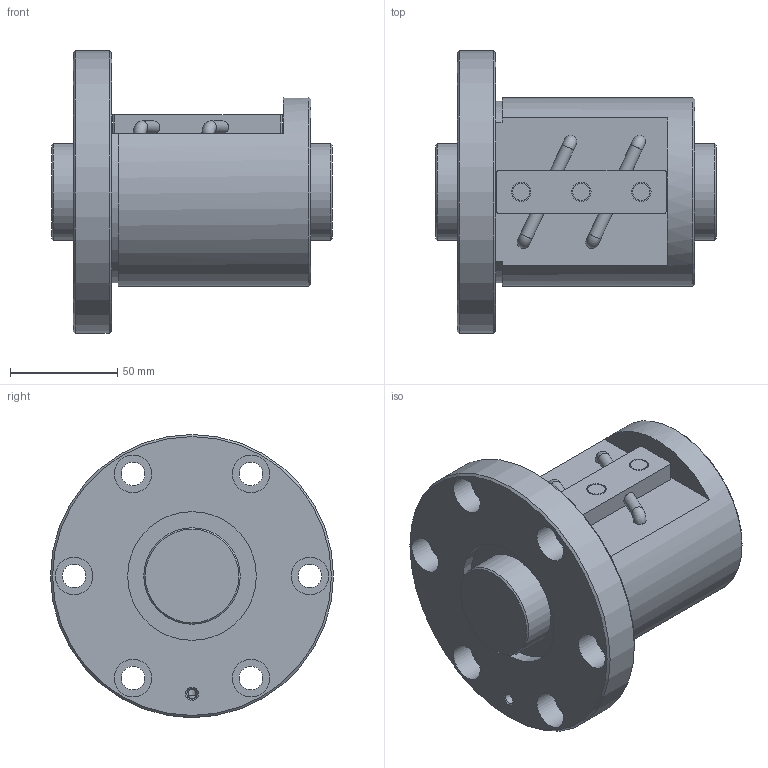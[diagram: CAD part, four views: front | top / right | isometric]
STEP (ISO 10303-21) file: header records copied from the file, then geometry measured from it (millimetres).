
FILE_DESCRIPTION(/* description */ ('STEP AP203'),/* implementation_level */ '2;1');
FILE_NAME(/* name */ 'BNF4510V-5RRG1+131LC0_000_rev',/* time_stamp */ '2024-08-06T08:54:45+02:00',/* author */ ('License CC BY-ND 4.0'),/* organization */ ('CADENAS'),/* preprocessor_version */ 'ST-DEVELOPER v19.3',/* originating_system */ 'PARTsolutions',/* authorisation */ ' ');
FILE_SCHEMA (('CONFIG_CONTROL_DESIGN'));
Length unit declared in the file: millimetre
Products named in the file (3): BNF4510V-5RRG1+131LC0_000_rev; BNF 4510-5RR000 Shaft; BNF 4510-5RR Nut
Assembly tree (2 placements, depth 2):
  BNF4510V-5RRG1+131LC0_000_rev
    BNF 4510-5RR000 Shaft
    BNF 4510-5RR Nut
Bounding box: 131 x 132 x 132 mm (x, y, z)
Volume: 759403.8 mm3; surface area: 103856.8 mm2
Topology: 2 solids, 2 shells, 77 faces, 168 edges, 110 vertices
Faces by surface type: cylinder 37, plane 29, cone 7, torus 4
Full cylindrical faces by diameter (mm): 4.5 x2, 4.917 x1, 5.865 x4, 8 x3, 9 x3, 11 x6, 17.5 x6, 45 x2, 60 x2, 88 x1, 132 x1
Entity records: 1943 total; most frequent: DIRECTION 348, CARTESIAN_POINT 324, ORIENTED_EDGE 220, AXIS2_PLACEMENT_3D 162, EDGE_LOOP 160, FACE_BOUND 160, EDGE_CURVE 110, VERTEX_POINT 96
